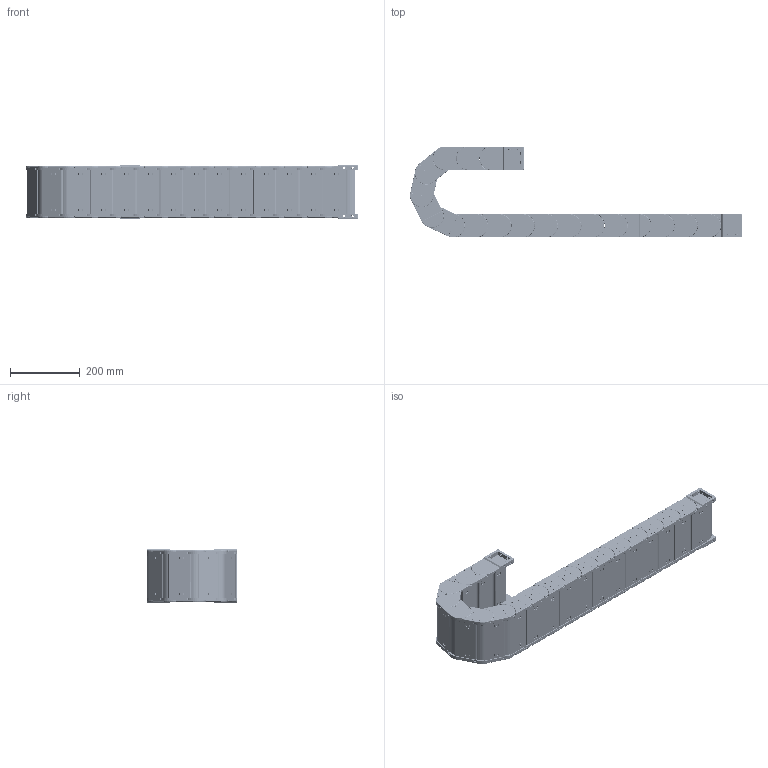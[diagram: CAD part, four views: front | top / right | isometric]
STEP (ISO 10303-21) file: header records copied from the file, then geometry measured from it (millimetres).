
FILE_DESCRIPTION (( 'STEP AP214' ), '1' );
FILE_NAME ('J45F.1.125S-3D賦凳芞.STEP', '2019-01-09T08:33:01', ( 'Sky123.Org' ), ( 'Sky123.Org' ), 'SwSTEP 2.0', 'SolidWorks 2017', '' );
FILE_SCHEMA (( 'AUTOMOTIVE_DESIGN' ));
Length unit declared in the file: millimetre
Products named in the file (11): J45F.1.125S-3D賦凳芞; 5-N45X100-源諉俋 - 萵掛; 45-N源諉芛俋; 5-N45X100-源諉囀 - 萵掛; 45-臏簽1; 45-N源諉芛囀; N45FX75-等誹1 - 萵掛; H35X75-FBP-W猾敕え; H35-J45-FBP-N猾敕え; 45-崝Ч翋极2; 45-崝Ч翋极1
Assembly tree (55 placements, depth 3):
  J45F.1.125S-3D賦凳芞
    N45FX75-等誹1 - 萵掛  x17
      45-崝Ч翋极1
      45-崝Ч翋极2
      H35-J45-FBP-N猾敕え
      H35X75-FBP-W猾敕え
    5-N45X100-源諉囀 - 萵掛
      45-N源諉芛囀  x2
      45-臏簽1  x12
      H35-J45-FBP-N猾敕え
      H35X75-FBP-W猾敕え
    5-N45X100-源諉俋 - 萵掛
      45-N源諉芛俋  x2
      45-臏簽1  x12
      H35-J45-FBP-N猾敕え
      H35X75-FBP-W猾敕え
Bounding box: 954.91 x 261 x 154 mm (x, y, z)
Volume: 3264206.9 mm3; surface area: 1833319.8 mm2
Topology: 100 solids, 100 shells, 23329 faces, 63191 edges, 39614 vertices
Faces by surface type: plane 12592, bspline 5004, cylinder 4977, torus 748, sphere 8
Entity records: 55392 total; most frequent: CARTESIAN_POINT 19957, ORIENTED_EDGE 7662, DIRECTION 6605, EDGE_CURVE 3831, VECTOR 2491, LINE 2491, VERTEX_POINT 2452, AXIS2_PLACEMENT_3D 2057
